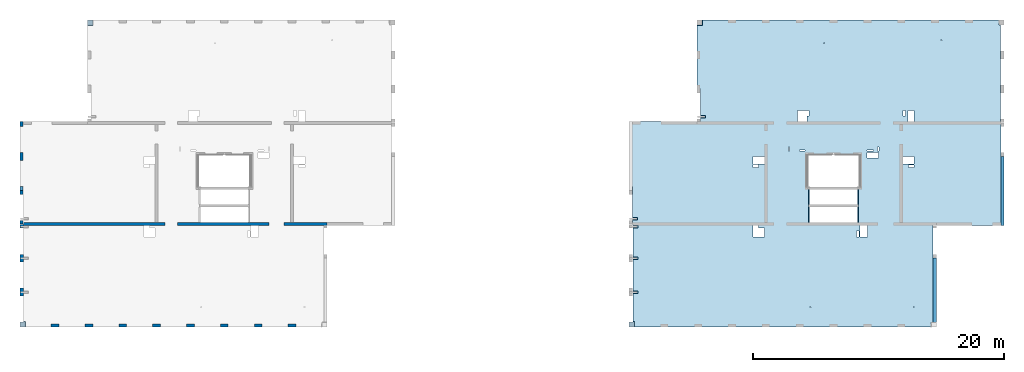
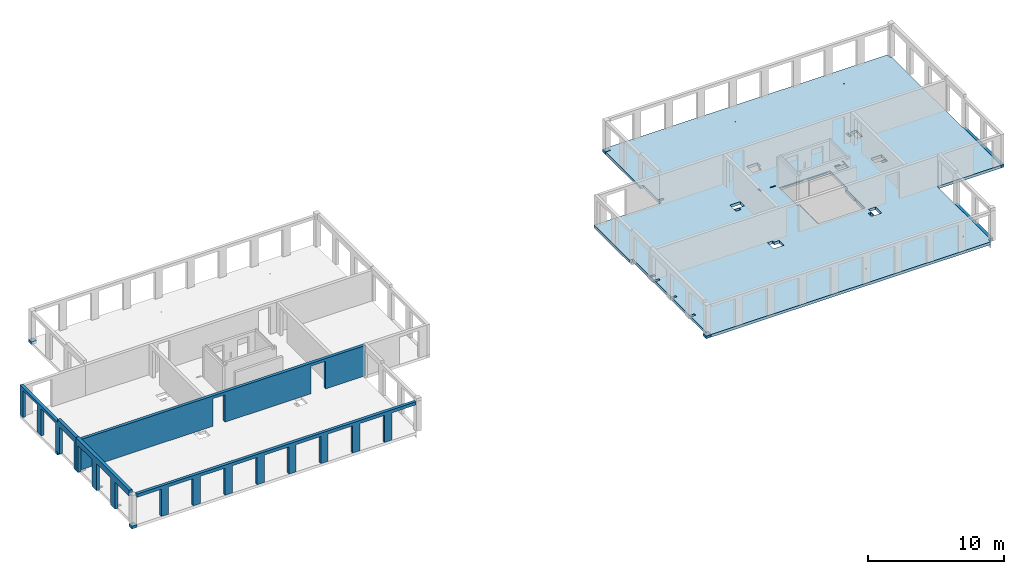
# One storey, part 2 of 8: 8 slabs, 4 walls, 52 openings.
"""IFC2X3 building model written with IfcOpenShell, lengths in millimetres."""

from ifc_helpers import new_model, entity, si_unit, converted_unit, derived_unit, direction, frame, frame_2d, origin, origin_2d_with_axis, place, context, subcontext, project, spatial, polyline, rectangle, circle, outline, extrude, material, layer, layer_set, layer_usage, type_object, element, save


model = new_model("IFC2X3")

# Units and contexts
model_context = context("Model", 3, precision=0.01, world=origin(), true_north=direction((6.12303176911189e-17, 1.0)))
body_context = subcontext(model_context, "Body", "Model", "MODEL_VIEW")
ifc_project = project(units=[si_unit("LENGTHUNIT", "METRE", prefix="MILLI"), si_unit("AREAUNIT", "SQUARE_METRE"), si_unit("VOLUMEUNIT", "CUBIC_METRE"), converted_unit("PLANEANGLEUNIT", "DEGREE", entity("IfcRatioMeasure", 0.0174532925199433), si_unit("PLANEANGLEUNIT", "RADIAN"), dimensions=[0, 0, 0, 0, 0, 0, 0]), si_unit("MASSUNIT", "GRAM", prefix="KILO"), derived_unit("MASSDENSITYUNIT", [(si_unit("MASSUNIT", "GRAM", prefix="KILO"), 1), (si_unit("LENGTHUNIT", "METRE"), -3)]), si_unit("TIMEUNIT", "SECOND"), si_unit("FREQUENCYUNIT", "HERTZ"), si_unit("THERMODYNAMICTEMPERATUREUNIT", "DEGREE_CELSIUS"), derived_unit("THERMALTRANSMITTANCEUNIT", [(si_unit("MASSUNIT", "GRAM", prefix="KILO"), 1), (si_unit("THERMODYNAMICTEMPERATUREUNIT", "KELVIN"), -1), (si_unit("TIMEUNIT", "SECOND"), -3)]), derived_unit("VOLUMETRICFLOWRATEUNIT", [(si_unit("LENGTHUNIT", "METRE"), 3), (si_unit("TIMEUNIT", "SECOND"), -1)]), si_unit("ELECTRICCURRENTUNIT", "AMPERE"), si_unit("ELECTRICVOLTAGEUNIT", "VOLT"), si_unit("POWERUNIT", "WATT"), si_unit("FORCEUNIT", "NEWTON", prefix="KILO"), si_unit("ILLUMINANCEUNIT", "LUX"), si_unit("LUMINOUSFLUXUNIT", "LUMEN"), si_unit("LUMINOUSINTENSITYUNIT", "CANDELA"), derived_unit("USERDEFINED", [(si_unit("MASSUNIT", "GRAM", prefix="KILO"), -1), (si_unit("LENGTHUNIT", "METRE"), -2), (si_unit("TIMEUNIT", "SECOND"), 3), (si_unit("LUMINOUSFLUXUNIT", "LUMEN"), 1)]), derived_unit("LINEARVELOCITYUNIT", [(si_unit("LENGTHUNIT", "METRE"), 1), (si_unit("TIMEUNIT", "SECOND"), -1)]), si_unit("PRESSUREUNIT", "PASCAL"), derived_unit("USERDEFINED", [(si_unit("LENGTHUNIT", "METRE"), -2), (si_unit("MASSUNIT", "GRAM", prefix="KILO"), 1), (si_unit("TIMEUNIT", "SECOND"), -2)])], contexts=[model_context])

# Site, building, storey
site_placement = place(None, origin())
site = spatial("IfcSite", under=ifc_project, at=site_placement, Name="Default", CompositionType="ELEMENT")
building_placement = place(site_placement, origin())
building = spatial("IfcBuilding", under=site, at=building_placement, Name="niet gebruiken", CompositionType="ELEMENT")
storey_placement = place(building_placement, frame((0.0, 0.0, 36360.0)))
storey = spatial("IfcBuildingStorey", under=building, at=storey_placement, Name="12 twaalfde verdieping", CompositionType="ELEMENT", Elevation=36360.0)

# Slab, openings
ifc_material_1 = material(Name="NLRS_f2_beton ihwg")
ifc_layer_1 = layer(ifc_material_1, 250.0)
ifc_layer_set_1 = layer_set([ifc_layer_1], Name="Floor:NLRS_23.21_FL_beton ihwg d=250_gen")
ifc_layer_usage_1 = layer_usage(ifc_layer_set_1, "AXIS3", "POSITIVE", 0.0)
slab_1_placement = place(storey_placement, frame((75750.0, 28756.0, -340.0)))
slab_1 = element("IfcSlab", 1, at=slab_1_placement, inside=storey, material=ifc_layer_usage_1, Name="Floor:NLRS_23.21_FL_beton ihwg d=250_gen", ObjectType="Floor:NLRS_23.21_FL_beton ihwg d=250_gen", PredefinedType="FLOOR", context=body_context, shape_type="SweptSolid", body=[
    extrude(outline(polyline([(9119.99996701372, 12250.0), (-14540.0, 12250.0), (-14540.0, 11840.0), (-14680.0, 11840.0), (-14680.0, 4060.0), (-14700.0, 4060.0), (-14700.0, -4150.0), (-9300.0, -4150.0), (-9300.0, -11890.0), (-9140.0, -11890.0), (-9140.0, -12250.0), (14520.0, -12250.0), (14520.0, -11820.0), (14660.0, -11820.0), (14660.0, -4060.0), (14680.0, -4060.0), (14680.0, -1040.0), (14950.0, -1040.0), (14950.0, 4150.0), (9280.0, 4150.0), (9280.0, 6750.0), (9550.0, 6750.0), (9550.0, 11820.0), (9119.99996701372, 11820.0), (9119.99996701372, 12250.0)])), frame((14700.0, 12250.0, 250.0), z_axis=(0.0, 0.0, -1.0), x_axis=(-1.0, 0.0, 0.0)), (0.0, 0.0, 1.0), 249.999999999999),
])
opening_1_placement = place(storey_placement, frame((75750.0, 28756.0, -340.0)))
element("IfcOpeningElement", 2, at=opening_1_placement, cuts=slab_1, ObjectType="Opening", context=body_context, shape_type="SweptSolid", body=[
    extrude(circle(Radius=37.5, at=frame_2d((-7750.0, -10650.0), x_axis=(1.0, 0.0))), frame((14700.0, 12250.0, 250.0), z_axis=(0.0, 0.0, -1.0), x_axis=(-1.0, 0.0, 0.0)), (0.0, 0.0, 1.0), 249.999999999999),
])
opening_2_placement = place(storey_placement, frame((75750.0, 28756.0, -340.0)))
element("IfcOpeningElement", 3, at=opening_2_placement, cuts=slab_1, ObjectType="Opening", context=body_context, shape_type="SweptSolid", body=[
    extrude(circle(Radius=37.5, at=frame_2d((-9950.0, 10650.0), x_axis=(1.0, 0.0))), frame((14700.0, 12250.0, 250.0), z_axis=(0.0, 0.0, -1.0), x_axis=(-1.0, 0.0, 0.0)), (0.0, 0.0, 1.0), 249.999999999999),
])
opening_3_placement = place(storey_placement, frame((75750.0, 28756.0, -340.0)))
element("IfcOpeningElement", 4, at=opening_3_placement, cuts=slab_1, ObjectType="Opening", context=body_context, shape_type="SweptSolid", body=[
    extrude(circle(Radius=37.5, at=frame_2d((-600.0, 10400.0), x_axis=(1.0, 0.0))), frame((14700.0, 12250.0, 250.0), z_axis=(0.0, 0.0, -1.0), x_axis=(-1.0, 0.0, 0.0)), (0.0, 0.0, 1.0), 249.999999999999),
])
opening_4_placement = place(storey_placement, frame((75750.0, 28756.0, -340.0)))
element("IfcOpeningElement", 5, at=opening_4_placement, cuts=slab_1, ObjectType="Opening", context=body_context, shape_type="SweptSolid", body=[
    extrude(circle(Radius=37.5, at=frame_2d((500.0, -10650.0), x_axis=(1.0, 0.0))), frame((14700.0, 12250.0, 250.0), z_axis=(0.0, 0.0, -1.0), x_axis=(-1.0, 0.0, 0.0)), (0.0, 0.0, 1.0), 249.999999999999),
])
opening_5_placement = place(slab_1_placement, origin())
element("IfcOpeningElement", 6, at=opening_5_placement, cuts=slab_1, ObjectType="Opening", context=body_context, shape_type="SweptSolid", body=[
    extrude(rectangle(XDim=109.999999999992, YDim=1220.0, at=origin_2d_with_axis()), frame((14094.9999671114, 10380.0, 210.0)), (0.0, 0.0, 1.0), 39.9999999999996),
])
opening_6_placement = place(slab_1_placement, origin())
element("IfcOpeningElement", 7, at=opening_6_placement, cuts=slab_1, ObjectType="Opening", context=body_context, shape_type="SweptSolid", body=[
    extrude(rectangle(XDim=109.999999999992, YDim=1220.0, at=origin_2d_with_axis()), frame((18005.0, 10380.0, 210.0)), (0.0, 0.0, 1.0), 39.9999999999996),
])
opening_7_placement = place(slab_1_placement, origin())
element("IfcOpeningElement", 8, at=opening_7_placement, cuts=slab_1, ObjectType="Opening", context=body_context, shape_type="SweptSolid", body=[
    extrude(rectangle(XDim=109.999999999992, YDim=1220.0, at=origin_2d_with_axis()), frame((18005.0, 8960.0, 210.0)), (0.0, 0.0, 1.0), 39.9999999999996),
])
opening_8_placement = place(slab_1_placement, origin())
element("IfcOpeningElement", 9, at=opening_8_placement, cuts=slab_1, ObjectType="Opening", context=body_context, shape_type="SweptSolid", body=[
    extrude(rectangle(XDim=109.999999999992, YDim=1220.0, at=origin_2d_with_axis()), frame((14094.9999671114, 8960.0, 210.0)), (0.0, 0.0, 1.0), 39.9999999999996),
])
opening_9_placement = place(slab_1_placement, origin())
element("IfcOpeningElement", 10, at=opening_9_placement, cuts=slab_1, ObjectType="Opening", context=body_context, shape_type="SweptSolid", body=[
    extrude(rectangle(XDim=400.000000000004, YDim=200.000000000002, at=origin_2d_with_axis()), frame((220.0, 8630.0, 220.0)), (0.0, 0.0, 1.0), 30.0000000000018),
])
opening_10_placement = place(slab_1_placement, origin())
element("IfcOpeningElement", 11, at=opening_10_placement, cuts=slab_1, ObjectType="Opening", context=body_context, shape_type="SweptSolid", body=[
    extrude(rectangle(XDim=200.000000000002, YDim=400.000000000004, at=origin_2d_with_axis()), frame((240.0, 8000.0, 220.0), z_axis=(0.0, 0.0, 1.0), x_axis=(0.0, -1.0, 0.0)), (0.0, 0.0, 1.0), 30.0000000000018),
])
opening_11_placement = place(slab_1_placement, origin())
element("IfcOpeningElement", 12, at=opening_11_placement, cuts=slab_1, ObjectType="Opening", context=body_context, shape_type="SweptSolid", body=[
    extrude(rectangle(XDim=200.000000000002, YDim=400.000000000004, at=origin_2d_with_axis()), frame((240.0, 5500.0, 220.0), z_axis=(0.0, 0.0, 1.0), x_axis=(0.0, -1.0, 0.0)), (0.0, 0.0, 1.0), 30.0000000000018),
])
opening_12_placement = place(slab_1_placement, origin())
element("IfcOpeningElement", 13, at=opening_12_placement, cuts=slab_1, ObjectType="Opening", context=body_context, shape_type="SweptSolid", body=[
    extrude(rectangle(XDim=200.000000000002, YDim=400.000000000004, at=origin_2d_with_axis()), frame((240.0, 2800.0, 220.0), z_axis=(0.0, 0.0, 1.0), x_axis=(0.0, -1.0, 0.0)), (0.0, 0.0, 1.0), 30.0000000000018),
])
opening_13_placement = place(slab_1_placement, origin())
element("IfcOpeningElement", 14, at=opening_13_placement, cuts=slab_1, ObjectType="Opening", context=body_context, shape_type="SweptSolid", body=[
    extrude(rectangle(XDim=399.999999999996, YDim=199.999999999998, at=origin_2d_with_axis()), frame((5620.0, 16765.0, 220.0)), (0.0, 0.0, 1.0), 30.0000000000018),
])
opening_14_placement = place(slab_1_placement, origin())
element("IfcOpeningElement", 15, at=opening_14_placement, cuts=slab_1, ObjectType="Opening", context=body_context, shape_type="SweptSolid", body=[
    extrude(rectangle(XDim=900.000000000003, YDim=730.000000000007, at=origin_2d_with_axis()), frame((13550.0, 16850.0, 0.0), z_axis=(0.0, 0.0, 1.0), x_axis=(0.0, 1.0, 0.0)), (0.0, 0.0, 1.0), 249.999999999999),
])
opening_15_placement = place(slab_1_placement, origin())
element("IfcOpeningElement", 16, at=opening_15_placement, cuts=slab_1, ObjectType="Opening", context=body_context, shape_type="SweptSolid", body=[
    extrude(rectangle(XDim=169.999999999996, YDim=450.000000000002, at=origin_2d_with_axis()), frame((14000.0, 17075.0, 0.0), z_axis=(0.0, 0.0, 1.0), x_axis=(-1.0, 0.0, 0.0)), (0.0, 0.0, 1.0), 249.999999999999),
])
opening_16_placement = place(slab_1_placement, origin())
element("IfcOpeningElement", 17, at=opening_16_placement, cuts=slab_1, ObjectType="Opening", context=body_context, shape_type="SweptSolid", body=[
    extrude(rectangle(XDim=900.000000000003, YDim=700.000000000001, at=origin_2d_with_axis()), frame((10075.0, 7550.0, 0.0), z_axis=(0.0, 0.0, 1.0), x_axis=(-1.0, 0.0, 0.0)), (0.0, 0.0, 1.0), 249.999999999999),
])
opening_17_placement = place(slab_1_placement, origin())
element("IfcOpeningElement", 18, at=opening_17_placement, cuts=slab_1, ObjectType="Opening", context=body_context, shape_type="SweptSolid", body=[
    extrude(rectangle(XDim=200.000000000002, YDim=450.000000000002, at=origin_2d_with_axis()), frame((9850.0, 8000.0, 0.0), z_axis=(0.0, 0.0, 1.0), x_axis=(0.0, -1.0, 0.0)), (0.0, 0.0, 1.0), 249.999999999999),
])
opening_18_placement = place(slab_1_placement, origin())
element("IfcOpeningElement", 19, at=opening_18_placement, cuts=slab_1, ObjectType="Opening", context=body_context, shape_type="SweptSolid", body=[
    extrude(rectangle(XDim=450.000000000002, YDim=900.000000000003, at=origin_2d_with_axis()), frame((19180.0, 13720.0, 0.0), z_axis=(0.0, 0.0, 1.0), x_axis=(0.0, -1.0, 0.0)), (0.0, 0.0, 1.0), 249.999999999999),
])
opening_19_placement = place(slab_1_placement, origin())
element("IfcOpeningElement", 20, at=opening_19_placement, cuts=slab_1, ObjectType="Opening", context=body_context, shape_type="SweptSolid", body=[
    extrude(rectangle(XDim=900.000000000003, YDim=600.000000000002, at=origin_2d_with_axis()), frame((10075.0, 13330.0, 0.0), z_axis=(0.0, 0.0, 1.0), x_axis=(-1.0, 0.0, 0.0)), (0.0, 0.0, 1.0), 249.999999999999),
])
opening_20_placement = place(slab_1_placement, origin())
element("IfcOpeningElement", 21, at=opening_20_placement, cuts=slab_1, ObjectType="Opening", context=body_context, shape_type="SweptSolid", body=[
    extrude(rectangle(XDim=900.000000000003, YDim=500.000000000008, at=origin_2d_with_axis()), frame((22225.0, 16850.0, 0.0), z_axis=(0.0, 0.0, 1.0), x_axis=(0.0, 1.0, 0.0)), (0.0, 0.0, 1.0), 249.999999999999),
])
opening_21_placement = place(slab_1_placement, origin())
element("IfcOpeningElement", 22, at=opening_21_placement, cuts=slab_1, ObjectType="Opening", context=body_context, shape_type="SweptSolid", body=[
    extrude(rectangle(XDim=899.999999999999, YDim=600.000000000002, at=origin_2d_with_axis()), frame((18479.9818996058, 7650.0, 0.0), z_axis=(0.0, 0.0, 1.0), x_axis=(0.0, 1.0, 0.0)), (0.0, 0.0, 1.0), 249.999999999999),
])
opening_22_placement = place(slab_1_placement, origin())
element("IfcOpeningElement", 23, at=opening_22_placement, cuts=slab_1, ObjectType="Opening", context=body_context, shape_type="SweptSolid", body=[
    extrude(rectangle(XDim=900.000000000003, YDim=600.000000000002, at=origin_2d_with_axis()), frame((22025.0, 13330.0, 0.0), z_axis=(0.0, 0.0, 1.0), x_axis=(-1.0, 0.0, 0.0)), (0.0, 0.0, 1.0), 249.999999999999),
])
opening_23_placement = place(slab_1_placement, origin())
element("IfcOpeningElement", 24, at=opening_23_placement, cuts=slab_1, ObjectType="Opening", context=body_context, shape_type="SweptSolid", body=[
    extrude(rectangle(XDim=1760.00000000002, YDim=23.0000000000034, at=origin_2d_with_axis()), frame((14994.9998491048, 13751.5, 180.0)), (0.0, 0.0, 1.0), 39.9999999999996),
])
opening_24_placement = place(slab_1_placement, origin())
element("IfcOpeningElement", 25, at=opening_24_placement, cuts=slab_1, ObjectType="Opening", context=body_context, shape_type="SweptSolid", body=[
    extrude(rectangle(XDim=1760.0, YDim=23.0000000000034, at=origin_2d_with_axis()), frame((17104.999849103, 13751.5, 180.0)), (0.0, 0.0, 1.0), 39.9999999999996),
])
opening_25_placement = place(slab_1_placement, origin())
element("IfcOpeningElement", 26, at=opening_25_placement, cuts=slab_1, ObjectType="Opening", context=body_context, shape_type="SweptSolid", body=[
    extrude(rectangle(XDim=99.9999999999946, YDim=340.000000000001, at=origin_2d_with_axis()), frame((19615.0, 14210.0, 0.0), z_axis=(0.0, 0.0, 1.0), x_axis=(-1.0, 0.0, 0.0)), (0.0, 0.0, 1.0), 249.999999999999),
])
opening_26_placement = place(slab_1_placement, origin())
element("IfcOpeningElement", 27, at=opening_26_placement, cuts=slab_1, ObjectType="Opening", context=body_context, shape_type="SweptSolid", body=[
    extrude(rectangle(XDim=100.000000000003, YDim=490.00000000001, at=origin_2d_with_axis()), frame((18975.0, 14090.0, 0.0), z_axis=(0.0, 0.0, 1.0), x_axis=(0.0, -1.0, 0.0)), (0.0, 0.0, 1.0), 249.999999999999),
])
opening_27_placement = place(slab_1_placement, origin())
element("IfcOpeningElement", 28, at=opening_27_placement, cuts=slab_1, ObjectType="Opening", context=body_context, shape_type="SweptSolid", body=[
    extrude(rectangle(XDim=100.000000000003, YDim=440.000000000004, at=origin_2d_with_axis()), frame((13555.0, 14090.0, 0.0), z_axis=(0.0, 0.0, 1.0), x_axis=(0.0, -1.0, 0.0)), (0.0, 0.0, 1.0), 249.999999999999),
])
opening_28_placement = place(slab_1_placement, origin())
element("IfcOpeningElement", 29, at=opening_28_placement, cuts=slab_1, ObjectType="Opening", context=body_context, shape_type="SweptSolid", body=[
    extrude(rectangle(XDim=99.9999999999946, YDim=340.000000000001, at=origin_2d_with_axis()), frame((12505.0, 14210.0, 0.0), z_axis=(0.0, 0.0, 1.0), x_axis=(-1.0, 0.0, 0.0)), (0.0, 0.0, 1.0), 249.999999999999),
])
opening_29_placement = place(slab_1_placement, origin())
element("IfcOpeningElement", 30, at=opening_29_placement, cuts=slab_1, ObjectType="Opening", context=body_context, shape_type="SweptSolid", body=[
    extrude(rectangle(XDim=230.0, YDim=450.000000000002, at=origin_2d_with_axis()), frame((9850.00008659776, 12845.0002270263, 0.0), z_axis=(0.0, 0.0, 1.0), x_axis=(0.0, -1.0, 0.0)), (0.0, 0.0, 1.0), 249.999999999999),
])
opening_30_placement = place(slab_1_placement, origin())
element("IfcOpeningElement", 31, at=opening_30_placement, cuts=slab_1, ObjectType="Opening", context=body_context, shape_type="SweptSolid", body=[
    extrude(rectangle(XDim=220.000000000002, YDim=450.000000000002, at=origin_2d_with_axis()), frame((21685.0, 17075.0, 0.0), z_axis=(0.0, 0.0, 1.0), x_axis=(-1.0, 0.0, 0.0)), (0.0, 0.0, 1.0), 249.999999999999),
])
opening_31_placement = place(slab_1_placement, origin())
element("IfcOpeningElement", 32, at=opening_31_placement, cuts=slab_1, ObjectType="Opening", context=body_context, shape_type="SweptSolid", body=[
    extrude(rectangle(XDim=220.000000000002, YDim=450.000000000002, at=origin_2d_with_axis()), frame((22250.0, 12840.0, 0.0), z_axis=(0.0, 0.0, 1.0), x_axis=(0.0, -1.0, 0.0)), (0.0, 0.0, 1.0), 249.999999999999),
])
opening_32_placement = place(slab_1_placement, origin())
element("IfcOpeningElement", 33, at=opening_32_placement, cuts=slab_1, ObjectType="Opening", context=body_context, shape_type="SweptSolid", body=[
    extrude(rectangle(XDim=220.000000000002, YDim=450.000000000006, at=origin_2d_with_axis()), frame((17990.0, 7425.0, 0.0)), (0.0, 0.0, 1.0), 249.999999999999),
])
opening_33_placement = place(slab_1_placement, frame((16050.0, 10378.7499999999, 250.0)))
element("IfcOpeningElement", 34, at=opening_33_placement, cuts=slab_1, Name="Floor:NLRS_23.21_FL_beton ihwg d=250_gen:2", ObjectType="Opening", context=body_context, shape_type="SweptSolid", body=[
    extrude(outline(polyline([(-1899.99998355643, -2028.75), (1900.00001644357, -2028.75), (1900.00001644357, -808.749999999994), (1999.99998355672, -808.749999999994), (1999.99998355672, -608.749999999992), (1900.00001644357, -608.749999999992), (1900.00001644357, 751.250000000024), (2134.99998355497, 751.250000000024), (2134.99998355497, 3361.24999999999), (-2135.0000164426, 3361.24999999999), (-2135.0000164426, 751.250000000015), (-1899.99998355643, 751.250000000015), (-1899.99998355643, -608.750000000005), (-2000.00001644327, -608.750000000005), (-2000.00001644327, -808.750000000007), (-1899.99998355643, -808.750000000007), (-1899.99998355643, -2028.75)])), frame((0.0, 0.0, 0.0), z_axis=(0.0, 0.0, -1.0), x_axis=(-1.0, 0.0, 0.0)), (0.0, 0.0, 1.0), 249.999999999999),
])

# Slabs
ifc_layer_usage_2 = layer_usage(ifc_layer_set_1, "AXIS3", "POSITIVE", 0.0)
slab_2_placement = place(storey_placement, origin())
element("IfcSlab", 35, at=slab_2_placement, inside=storey, material=ifc_layer_usage_2, Name="Floor:NLRS_23.21_FL_beton ihwg d=250_gen", ObjectType="Floor:NLRS_23.21_FL_beton ihwg d=250_gen", PredefinedType="FLOOR", context=body_context, shape_type="SweptSolid", body=[
    extrude(rectangle(XDim=309.9999999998, YDim=250.000000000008, at=frame_2d((-4.33431068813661e-12, 2.16715534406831e-12), x_axis=(1.0, 0.0))), frame((27025.0, 39811.0, -90.0), z_axis=(0.0, 0.0, -1.0), x_axis=(0.0, 1.0, 0.0)), (0.0, 0.0, 1.0), 249.999999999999),
])
ifc_layer_usage_3 = layer_usage(ifc_layer_set_1, "AXIS3", "POSITIVE", 0.0)
slab_3_placement = place(storey_placement, origin())
element("IfcSlab", 36, at=slab_3_placement, inside=storey, material=ifc_layer_usage_3, Name="Floor:NLRS_23.21_FL_beton ihwg d=250_gen", ObjectType="Floor:NLRS_23.21_FL_beton ihwg d=250_gen", PredefinedType="FLOOR", context=body_context, shape_type="SweptSolid", body=[
    extrude(rectangle(XDim=5140.00000000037, YDim=250.000065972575, at=frame_2d((-2.27373675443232e-12, 0.0), x_axis=(1.0, 0.0))), frame((99875.0, 31686.0, -90.0), z_axis=(0.0, 0.0, -1.0), x_axis=(0.0, 1.0, 0.0)), (0.0, 0.0, 1.0), 249.999999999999),
])
ifc_layer_usage_4 = layer_usage(ifc_layer_set_1, "AXIS3", "POSITIVE", 0.0)
slab_4_placement = place(storey_placement, origin())
element("IfcSlab", 37, at=slab_4_placement, inside=storey, material=ifc_layer_usage_4, Name="Floor:NLRS_23.21_FL_beton ihwg d=250_gen", ObjectType="Floor:NLRS_23.21_FL_beton ihwg d=250_gen", PredefinedType="FLOOR", context=body_context, shape_type="SweptSolid", body=[
    extrude(rectangle(XDim=5500.00000000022, YDim=250.000000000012, at=origin_2d_with_axis()), frame((105275.0, 39606.0, -90.0), z_axis=(0.0, 0.0, -1.0), x_axis=(0.0, 1.0, 0.0)), (0.0, 0.0, 1.0), 249.999999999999),
])
ifc_layer_usage_5 = layer_usage(ifc_layer_set_1, "AXIS3", "POSITIVE", 0.0)
slab_5_placement = place(storey_placement, origin())
element("IfcSlab", 38, at=slab_5_placement, inside=storey, material=ifc_layer_usage_5, Name="Floor:NLRS_23.21_FL_beton ihwg d=250_gen", ObjectType="Floor:NLRS_23.21_FL_beton ihwg d=250_gen", PredefinedType="FLOOR", context=body_context, shape_type="SweptSolid", body=[
    extrude(outline(polyline([(-280.0, -240.0), (130.0, -240.0), (130.0, 50.0), (150.0, 50.0), (150.0, 190.0), (-280.0, 190.0), (-280.0, -240.0)])), frame((27140.0, 29036.0, -90.0), z_axis=(0.0, 0.0, -1.0), x_axis=(0.0, 1.0, 0.0)), (0.0, 0.0, 1.0), 249.999999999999),
])
ifc_layer_usage_6 = layer_usage(ifc_layer_set_1, "AXIS3", "POSITIVE", 0.0)
slab_6_placement = place(storey_placement, origin())
element("IfcSlab", 39, at=slab_6_placement, inside=storey, material=ifc_layer_usage_6, Name="Floor:NLRS_23.21_FL_beton ihwg d=250_gen", ObjectType="Floor:NLRS_23.21_FL_beton ihwg d=250_gen", PredefinedType="FLOOR", context=body_context, shape_type="SweptSolid", body=[
    extrude(outline(polyline([(-280.0, -240.0), (130.0, -240.0), (130.0, 50.0), (150.0, 50.0), (150.0, 190.0), (-280.0, 190.0), (-280.0, -240.0)])), frame((75740.0, 29036.0, -90.0), z_axis=(0.0, 0.0, -1.0), x_axis=(0.0, 1.0, 0.0)), (0.0, 0.0, 1.0), 249.999999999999),
])
ifc_layer_usage_7 = layer_usage(ifc_layer_set_1, "AXIS3", "POSITIVE", 0.0)
slab_7_placement = place(storey_placement, origin())
element("IfcSlab", 40, at=slab_7_placement, inside=storey, material=ifc_layer_usage_7, Name="Floor:NLRS_23.21_FL_beton ihwg d=250_gen", ObjectType="Floor:NLRS_23.21_FL_beton ihwg d=250_gen", PredefinedType="FLOOR", context=body_context, shape_type="SweptSolid", body=[
    extrude(rectangle(XDim=429.999999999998, YDim=430.000032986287, at=frame_2d((4.33431068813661e-12, 0.0), x_axis=(1.0, 0.0))), frame((81115.0, 53041.0, -90.0), z_axis=(0.0, 0.0, -1.0), x_axis=(0.0, 1.0, 0.0)), (0.0, 0.0, 1.0), 249.999999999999),
])
ifc_layer_usage_8 = layer_usage(ifc_layer_set_1, "AXIS3", "POSITIVE", 0.0)
slab_8_placement = place(storey_placement, origin())
element("IfcSlab", 41, at=slab_8_placement, inside=storey, material=ifc_layer_usage_8, Name="Floor:NLRS_23.21_FL_beton ihwg d=250_gen", ObjectType="Floor:NLRS_23.21_FL_beton ihwg d=250_gen", PredefinedType="FLOOR", context=body_context, shape_type="SweptSolid", body=[
    extrude(rectangle(XDim=429.999999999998, YDim=430.000032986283, at=frame_2d((4.33431068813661e-12, 2.1600499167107e-12), x_axis=(1.0, 0.0))), frame((32515.0, 53041.0, -90.0), z_axis=(0.0, 0.0, -1.0), x_axis=(0.0, 1.0, 0.0)), (0.0, 0.0, 1.0), 249.999999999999),
])

# Wall, openings
ifc_layer_2 = layer(ifc_material_1, 250.0)
ifc_layer_set_2 = layer_set([ifc_layer_2], Name="Basic Wall:NLRS_22.21_WA_beton ihwg d=250_gen")
ifc_layer_usage_9 = layer_usage(ifc_layer_set_2, "AXIS2", "NEGATIVE", 125.0)
wall_type_1 = type_object("IfcWallType", Name="Basic Wall:NLRS_22.21_WA_beton ihwg d=250_gen", PredefinedType="STANDARD", material=ifc_layer_set_2)
wall_1_placement = place(storey_placement, frame((27170.0, 36981.0, -90.0)))
wall_1 = element("IfcWallStandardCase", 42, at=wall_1_placement, inside=storey, type_object=wall_type_1, material=ifc_layer_usage_9, Name="Basic Wall:NLRS_22.21_WA_beton ihwg d=250_gen", ObjectType="Basic Wall:NLRS_22.21_WA_beton ihwg d=250_gen", context=body_context, shape_type="SweptSolid", body=[
    extrude(rectangle(XDim=24230.0000000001, YDim=250.000000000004, at=frame_2d((12115.0, 0.0), x_axis=(-1.0, 0.0))), origin(), (0.0, 0.0, 1.0), 2719.99999999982),
])
opening_34_placement = place(wall_1_placement, origin())
element("IfcOpeningElement", 43, at=opening_34_placement, cuts=wall_1, Name="Basic Wall:NLRS_22.21_WA_beton ihwg d=250_gen", ObjectType="Opening", context=body_context, shape_type="SweptSolid", body=[
    extrude(rectangle(XDim=2470.0, YDim=1225.0, at=frame_2d((0.0, -4.43378667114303e-12), x_axis=(0.0, 1.0))), frame((20192.500000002, -1399.0, 1235.0), z_axis=(0.0, 1.0, 0.0), x_axis=(-1.0, 0.0, 0.0)), (0.0, 0.0, 1.0), 3048.0),
])
opening_35_placement = place(wall_1_placement, origin())
element("IfcOpeningElement", 44, at=opening_35_placement, cuts=wall_1, Name="Basic Wall:NLRS_22.21_WA_beton ihwg d=250_gen", ObjectType="Opening", context=body_context, shape_type="SweptSolid", body=[
    extrude(rectangle(XDim=2470.0, YDim=1006.0, at=frame_2d((2.1600499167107e-12, 0.0), x_axis=(0.0, 1.0))), frame((11782.0, -1399.0, 1235.0), z_axis=(0.0, 1.0, 0.0), x_axis=(-1.0, 0.0, 0.0)), (0.0, 0.0, 1.0), 3048.0),
])
opening_36_placement = place(wall_1_placement, origin())
element("IfcOpeningElement", 45, at=opening_36_placement, cuts=wall_1, Name="Basic Wall:NLRS_22.21_WA_beton ihwg d=250_gen", ObjectType="Recess", context=body_context, shape_type="SweptSolid", body=[
    extrude(rectangle(XDim=55000.0, YDim=20.0000000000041, at=frame_2d((0.0, -2.16626716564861e-12), x_axis=(1.0, 0.0))), frame((10.0, -140.0, 3740.0), z_axis=(0.0, 1.0, 0.0), x_axis=(0.0, 0.0, -1.0)), (0.0, 0.0, 1.0), 124.999999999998),
])

ifc_material_2 = material(Name="NLRS_f2_beton prefab")
ifc_layer_3 = layer(ifc_material_2, 250.0)
ifc_layer_set_3 = layer_set([ifc_layer_3], Name="Basic Wall:NLRS_21.21_WA_beton prefab d=250_gen")
ifc_layer_usage_10 = layer_usage(ifc_layer_set_3, "AXIS2", "NEGATIVE", 125.0)
wall_type_2 = type_object("IfcWallType", Name="Basic Wall:NLRS_21.21_WA_beton prefab d=250_gen", PredefinedType="STANDARD", material=ifc_layer_set_3)
wall_2_placement = place(storey_placement, frame((27025.0, 45156.0, -70.0), z_axis=(0.0, 0.0, 1.0), x_axis=(0.0, -1.0, 0.0)))
wall_2 = element("IfcWallStandardCase", 46, at=wall_2_placement, inside=storey, type_object=wall_type_2, material=ifc_layer_usage_10, Name="Basic Wall:NLRS_21.21_WA_beton prefab d=250_gen", ObjectType="Basic Wall:NLRS_21.21_WA_beton prefab d=250_gen", context=body_context, shape_type="SweptSolid", body=[
    extrude(rectangle(XDim=8189.99999999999, YDim=250.000000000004, at=frame_2d((4095.0, 0.0), x_axis=(-1.0, 0.0))), origin(), (0.0, 0.0, 1.0), 2949.99999999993),
])
opening_37_placement = place(wall_2_placement, origin())
element("IfcOpeningElement", 47, at=opening_37_placement, cuts=wall_2, Name="Basic Wall:NLRS_21.21_WA_beton prefab d=250_gen", ObjectType="Opening", context=body_context, shape_type="SweptSolid", body=[
    extrude(rectangle(XDim=2420.0, YDim=2080.0, at=frame_2d((0.0, -2.1600499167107e-12), x_axis=(0.0, 1.0))), frame((1450.0, -1399.0, 1210.0), z_axis=(0.0, 1.0, 0.0), x_axis=(-1.0, 0.0, 0.0)), (0.0, 0.0, 1.0), 3048.0),
])
opening_38_placement = place(wall_2_placement, origin())
element("IfcOpeningElement", 48, at=opening_38_placement, cuts=wall_2, Name="Basic Wall:NLRS_21.21_WA_beton prefab d=250_gen", ObjectType="Opening", context=body_context, shape_type="SweptSolid", body=[
    extrude(rectangle(XDim=2420.0, YDim=2080.0, at=frame_2d((0.0, 2.1600499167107e-12), x_axis=(0.0, 1.0))), frame((4150.0, -1399.0, 1210.0), z_axis=(0.0, 1.0, 0.0), x_axis=(-1.0, 0.0, 0.0)), (0.0, 0.0, 1.0), 3048.0),
])
opening_39_placement = place(wall_2_placement, origin())
element("IfcOpeningElement", 49, at=opening_39_placement, cuts=wall_2, Name="Basic Wall:NLRS_21.21_WA_beton prefab d=250_gen", ObjectType="Opening", context=body_context, shape_type="SweptSolid", body=[
    extrude(rectangle(XDim=2420.0, YDim=2080.0, at=frame_2d((0.0, 2.1600499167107e-12), x_axis=(0.0, 1.0))), frame((6850.0, -1399.0, 1210.0), z_axis=(0.0, 1.0, 0.0), x_axis=(-1.0, 0.0, 0.0)), (0.0, 0.0, 1.0), 3048.0),
])
opening_40_placement = place(wall_2_placement, origin())
element("IfcOpeningElement", 50, at=opening_40_placement, cuts=wall_2, Name="Basic Wall:NLRS_21.21_WA_beton prefab d=250_gen", ObjectType="Opening", context=body_context, shape_type="SweptSolid", body=[
    extrude(rectangle(XDim=250.000000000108, YDim=5499.99999999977, at=frame_2d((0.0, 4.32720526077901e-12), x_axis=(0.0, 1.0))), frame((2750.0, 125.0, 2825.0), z_axis=(0.0, -1.0, 0.0), x_axis=(-1.0, 0.0, 0.0)), (0.0, 0.0, 1.0), 250.0),
])

ifc_layer_4 = layer(ifc_material_1, 250.0)
ifc_layer_set_4 = layer_set([ifc_layer_4], Name="Basic Wall:NLRS_21.21_WA_beton ihwg d=250_gen")
ifc_layer_usage_11 = layer_usage(ifc_layer_set_4, "AXIS2", "NEGATIVE", 125.0)
wall_type_3 = type_object("IfcWallType", Name="Basic Wall:NLRS_21.21_WA_beton ihwg d=250_gen", PredefinedType="STANDARD", material=ifc_layer_set_4)
wall_3_placement = place(storey_placement, frame((27330.0, 28881.0, -90.0)))
wall_3 = element("IfcWallStandardCase", 51, at=wall_3_placement, inside=storey, type_object=wall_type_3, material=ifc_layer_usage_11, Name="Basic Wall:NLRS_21.21_WA_beton ihwg d=250_gen", ObjectType="Basic Wall:NLRS_21.21_WA_beton ihwg d=250_gen", context=body_context, shape_type="SweptSolid", body=[
    extrude(rectangle(XDim=23640.0000000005, YDim=250.000000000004, at=frame_2d((11820.0000000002, -8.66862137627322e-13), x_axis=(-1.0, 0.0))), origin(), (0.0, 0.0, 1.0), 2720.00000000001),
])
opening_41_placement = place(wall_3_placement, origin())
element("IfcOpeningElement", 52, at=opening_41_placement, cuts=wall_3, Name="Basic Wall:NLRS_21.21_WA_beton ihwg d=250_gen", ObjectType="Opening", context=body_context, shape_type="SweptSolid", body=[
    extrude(rectangle(XDim=2440.0, YDim=2080.0, at=frame_2d((0.0, -2.1600499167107e-12), x_axis=(0.0, 1.0))), frame((22620.0, -1399.0, 1220.0), z_axis=(0.0, 1.0, 0.0), x_axis=(-1.0, 0.0, 0.0)), (0.0, 0.0, 1.0), 3048.0),
])
opening_42_placement = place(wall_3_placement, origin())
element("IfcOpeningElement", 53, at=opening_42_placement, cuts=wall_3, Name="Basic Wall:NLRS_21.21_WA_beton ihwg d=250_gen", ObjectType="Opening", context=body_context, shape_type="SweptSolid", body=[
    extrude(rectangle(XDim=2440.0, YDim=2080.0, at=frame_2d((0.0, 0.0), x_axis=(0.0, 1.0))), frame((19920.0, -1399.0, 1220.0), z_axis=(0.0, 1.0, 0.0), x_axis=(-1.0, 0.0, 0.0)), (0.0, 0.0, 1.0), 3048.0),
])
opening_43_placement = place(wall_3_placement, origin())
element("IfcOpeningElement", 54, at=opening_43_placement, cuts=wall_3, Name="Basic Wall:NLRS_21.21_WA_beton ihwg d=250_gen", ObjectType="Opening", context=body_context, shape_type="SweptSolid", body=[
    extrude(rectangle(XDim=2440.0, YDim=2080.0, at=frame_2d((0.0, 2.1600499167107e-12), x_axis=(0.0, 1.0))), frame((17220.0, -1399.0, 1220.0), z_axis=(0.0, 1.0, 0.0), x_axis=(-1.0, 0.0, 0.0)), (0.0, 0.0, 1.0), 3048.0),
])
opening_44_placement = place(wall_3_placement, origin())
element("IfcOpeningElement", 55, at=opening_44_placement, cuts=wall_3, Name="Basic Wall:NLRS_21.21_WA_beton ihwg d=250_gen", ObjectType="Opening", context=body_context, shape_type="SweptSolid", body=[
    extrude(rectangle(XDim=2440.0, YDim=2080.0, at=frame_2d((0.0, 0.0), x_axis=(0.0, 1.0))), frame((14520.0, -1399.0, 1220.0), z_axis=(0.0, 1.0, 0.0), x_axis=(-1.0, 0.0, 0.0)), (0.0, 0.0, 1.0), 3048.0),
])
opening_45_placement = place(wall_3_placement, origin())
element("IfcOpeningElement", 56, at=opening_45_placement, cuts=wall_3, Name="Basic Wall:NLRS_21.21_WA_beton ihwg d=250_gen", ObjectType="Opening", context=body_context, shape_type="SweptSolid", body=[
    extrude(rectangle(XDim=2440.0, YDim=2080.0, at=frame_2d((-4.32009983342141e-12, -2.1600499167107e-12), x_axis=(0.0, 1.0))), frame((11820.0, -1399.0, 1220.0), z_axis=(0.0, 1.0, 0.0), x_axis=(-1.0, 0.0, 0.0)), (0.0, 0.0, 1.0), 3048.0),
])
opening_46_placement = place(wall_3_placement, origin())
element("IfcOpeningElement", 57, at=opening_46_placement, cuts=wall_3, Name="Basic Wall:NLRS_21.21_WA_beton ihwg d=250_gen", ObjectType="Opening", context=body_context, shape_type="SweptSolid", body=[
    extrude(rectangle(XDim=2440.0, YDim=2080.0, at=frame_2d((-2.1600499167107e-12, 0.0), x_axis=(0.0, 1.0))), frame((9120.0, -1399.0, 1220.0), z_axis=(0.0, 1.0, 0.0), x_axis=(-1.0, 0.0, 0.0)), (0.0, 0.0, 1.0), 3048.0),
])
opening_47_placement = place(wall_3_placement, origin())
element("IfcOpeningElement", 58, at=opening_47_placement, cuts=wall_3, Name="Basic Wall:NLRS_21.21_WA_beton ihwg d=250_gen", ObjectType="Opening", context=body_context, shape_type="SweptSolid", body=[
    extrude(rectangle(XDim=2440.0, YDim=2080.0, at=frame_2d((2.1600499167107e-12, -2.1600499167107e-12), x_axis=(0.0, 1.0))), frame((6420.0, -1399.0, 1220.0), z_axis=(0.0, 1.0, 0.0), x_axis=(-1.0, 0.0, 0.0)), (0.0, 0.0, 1.0), 3048.0),
])
opening_48_placement = place(wall_3_placement, origin())
element("IfcOpeningElement", 59, at=opening_48_placement, cuts=wall_3, Name="Basic Wall:NLRS_21.21_WA_beton ihwg d=250_gen", ObjectType="Opening", context=body_context, shape_type="SweptSolid", body=[
    extrude(rectangle(XDim=2440.0, YDim=2080.0, at=frame_2d((2.1600499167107e-12, 0.0), x_axis=(0.0, 1.0))), frame((3720.0, -1399.0, 1220.0), z_axis=(0.0, 1.0, 0.0), x_axis=(-1.0, 0.0, 0.0)), (0.0, 0.0, 1.0), 3048.0),
])
opening_49_placement = place(wall_3_placement, origin())
element("IfcOpeningElement", 60, at=opening_49_placement, cuts=wall_3, Name="Basic Wall:NLRS_21.21_WA_beton ihwg d=250_gen", ObjectType="Opening", context=body_context, shape_type="SweptSolid", body=[
    extrude(rectangle(XDim=2440.0, YDim=2080.0, at=frame_2d((-2.1600499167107e-12, -2.1600499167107e-12), x_axis=(0.0, 1.0))), frame((1020.0, -1399.0, 1220.0), z_axis=(0.0, 1.0, 0.0), x_axis=(-1.0, 0.0, 0.0)), (0.0, 0.0, 1.0), 3048.0),
])

ifc_layer_5 = layer(ifc_material_2, 270.0)
ifc_layer_set_5 = layer_set([ifc_layer_5], Name="Basic Wall:NLRS_21.21_WA_beton prefab d=270_gen")
ifc_layer_usage_12 = layer_usage(ifc_layer_set_5, "AXIS2", "NEGATIVE", 135.0)
wall_type_4 = type_object("IfcWallType", Name="Basic Wall:NLRS_21.21_WA_beton prefab d=270_gen", PredefinedType="STANDARD", material=ifc_layer_set_5)
wall_4_placement = place(storey_placement, frame((27035.0, 36946.0, -70.0), z_axis=(0.0, 0.0, 1.0), x_axis=(0.0, -1.0, 0.0)))
wall_4 = element("IfcWallStandardCase", 61, at=wall_4_placement, inside=storey, type_object=wall_type_4, material=ifc_layer_usage_12, Name="Basic Wall:NLRS_21.21_WA_beton prefab d=270_gen", ObjectType="Basic Wall:NLRS_21.21_WA_beton prefab d=270_gen", context=body_context, shape_type="SweptSolid", body=[
    extrude(rectangle(XDim=7779.99999999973, YDim=269.999999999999, at=frame_2d((3889.99999999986, 0.0), x_axis=(-1.0, 0.0))), origin(), (0.0, 0.0, 1.0), 2949.99999999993),
])
opening_50_placement = place(wall_4_placement, origin())
element("IfcOpeningElement", 62, at=opening_50_placement, cuts=wall_4, Name="Basic Wall:NLRS_21.21_WA_beton prefab d=270_gen", ObjectType="Opening", context=body_context, shape_type="SweptSolid", body=[
    extrude(rectangle(XDim=2420.0, YDim=2080.0, at=frame_2d((-2.1600499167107e-12, -2.1600499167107e-12), x_axis=(0.0, 1.0))), frame((1340.0, -1389.0, 1210.0), z_axis=(0.0, 1.0, 0.0), x_axis=(-1.0, 0.0, 0.0)), (0.0, 0.0, 1.0), 3048.0),
])
opening_51_placement = place(wall_4_placement, origin())
element("IfcOpeningElement", 63, at=opening_51_placement, cuts=wall_4, Name="Basic Wall:NLRS_21.21_WA_beton prefab d=270_gen", ObjectType="Opening", context=body_context, shape_type="SweptSolid", body=[
    extrude(rectangle(XDim=2420.0, YDim=2080.0, at=frame_2d((2.1600499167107e-12, 2.1600499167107e-12), x_axis=(0.0, 1.0))), frame((4040.0, -1389.0, 1210.0), z_axis=(0.0, 1.0, 0.0), x_axis=(-1.0, 0.0, 0.0)), (0.0, 0.0, 1.0), 3048.0),
])
opening_52_placement = place(wall_4_placement, origin())
element("IfcOpeningElement", 64, at=opening_52_placement, cuts=wall_4, Name="Basic Wall:NLRS_21.21_WA_beton prefab d=270_gen", ObjectType="Opening", context=body_context, shape_type="SweptSolid", body=[
    extrude(rectangle(XDim=2420.0, YDim=2080.0, at=frame_2d((2.1600499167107e-12, 2.1600499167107e-12), x_axis=(0.0, 1.0))), frame((6740.0, -1389.0, 1210.0), z_axis=(0.0, 1.0, 0.0), x_axis=(-1.0, 0.0, 0.0)), (0.0, 0.0, 1.0), 3048.0),
])

save(model, "model.ifc")
